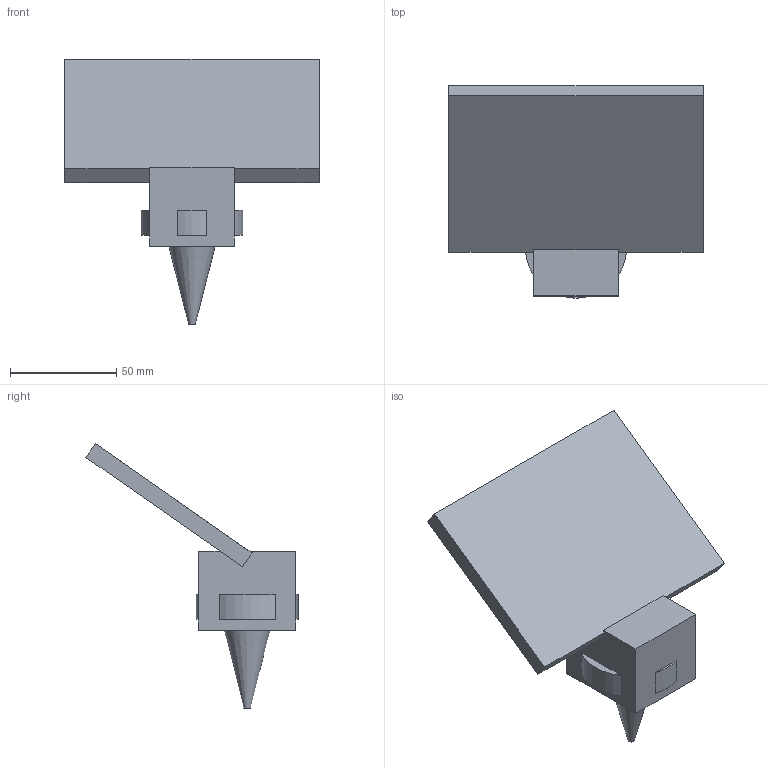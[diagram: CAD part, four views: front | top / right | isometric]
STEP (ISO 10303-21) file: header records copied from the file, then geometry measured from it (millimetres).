
FILE_DESCRIPTION(('Open CASCADE Model'),'2;1');
FILE_NAME('Open CASCADE Shape Model','2026-07-25T17:39:16',('Author'),( 'Open CASCADE'),'Open CASCADE STEP processor 7.9','build123d', 'Unknown');
FILE_SCHEMA(('AUTOMOTIVE_DESIGN { 1 0 10303 214 1 1 1 1 }'));
Length unit declared in the file: millimetre
Products named in the file (1): COMPOUND
Bounding box: 120 x 100.02 x 125.01 mm (x, y, z)
Volume: 159754.4 mm3; surface area: 34966.2 mm2
Topology: 1 solids, 1 shells, 28 faces, 63 edges, 42 vertices
Faces by surface type: plane 23, cylinder 4, cone 1
Entity records: 1561 total; most frequent: CARTESIAN_POINT 314, DIRECTION 208, ORIENTED_EDGE 126, PCURVE 126, DEFINITIONAL_REPRESENTATION 126, LINE 121, VECTOR 121, EDGE_CURVE 63
